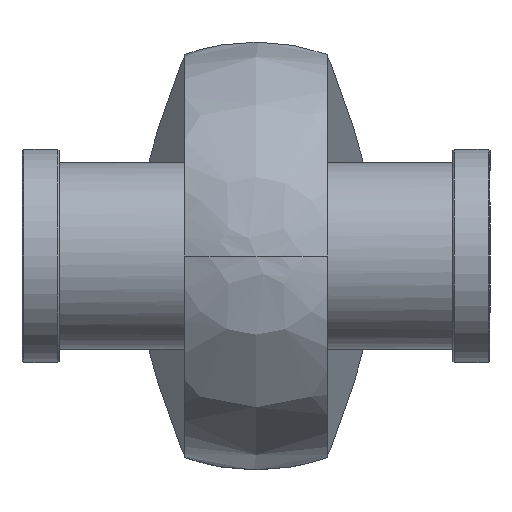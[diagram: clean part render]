
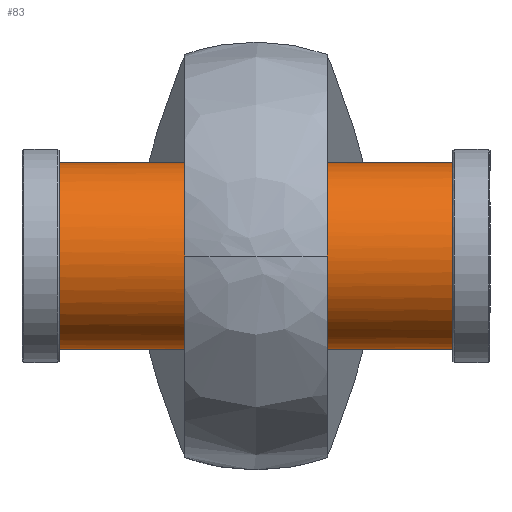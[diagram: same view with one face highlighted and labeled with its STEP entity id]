
A CAD part, left-side view. The second image highlights one B-rep face of the part: STEP entity #83.
In plain terms, the highlighted cylindrical face has radius 27.5 mm (diameter 55 mm), a full revolution.
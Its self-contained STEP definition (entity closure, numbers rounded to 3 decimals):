
#83=ADVANCED_FACE('',(#157),#1214,.T.);
#157=FACE_OUTER_BOUND('',#238,.T.);
#238=EDGE_LOOP('',(#506,#507,#508,#509));
#506=ORIENTED_EDGE('',*,*,#774,.T.);
#507=ORIENTED_EDGE('',*,*,#776,.T.);
#508=ORIENTED_EDGE('',*,*,#775,.T.);
#509=ORIENTED_EDGE('',*,*,#776,.F.);
#774=EDGE_CURVE('',#1128,#1128,#983,.T.);
#775=EDGE_CURVE('',#1129,#1129,#984,.T.);
#776=EDGE_CURVE('',#1128,#1129,#897,.T.);
#897=B_SPLINE_CURVE_WITH_KNOTS('',1,(#2248,#2249),.UNSPECIFIED.,.F.,.F.,
(2,2),(11.707,127.579),.UNSPECIFIED.);
#983=(
BOUNDED_CURVE()
B_SPLINE_CURVE(2,(#2230,#2231,#2232,#2233,#2234,#2235,#2236,#2237,#2238),
 .UNSPECIFIED.,.T.,.F.)
B_SPLINE_CURVE_WITH_KNOTS((3,2,2,2,3),(0.,43.197,86.394,
129.591,172.788),.UNSPECIFIED.)
CURVE()
GEOMETRIC_REPRESENTATION_ITEM()
RATIONAL_B_SPLINE_CURVE((1.,0.707,1.,0.707,1.,0.707,
1.,0.707,1.))
REPRESENTATION_ITEM('')
);
#984=(
BOUNDED_CURVE()
B_SPLINE_CURVE(2,(#2239,#2240,#2241,#2242,#2243,#2244,#2245,#2246,#2247),
 .UNSPECIFIED.,.T.,.F.)
B_SPLINE_CURVE_WITH_KNOTS((3,2,2,2,3),(0.,43.197,86.394,
129.591,172.788),.UNSPECIFIED.)
CURVE()
GEOMETRIC_REPRESENTATION_ITEM()
RATIONAL_B_SPLINE_CURVE((1.,0.707,1.,0.707,1.,0.707,
1.,0.707,1.))
REPRESENTATION_ITEM('')
);
#1128=VERTEX_POINT('',#2182);
#1129=VERTEX_POINT('',#2183);
#1214=CYLINDRICAL_SURFACE('',#1366,27.5);
#1366=AXIS2_PLACEMENT_3D('',#2172,#1412,$);
#1412=DIRECTION('',(0.,-1.,0.));
#2172=CARTESIAN_POINT('',(0.,0.,0.));
#2182=CARTESIAN_POINT('',(27.5,57.936,0.));
#2183=CARTESIAN_POINT('',(27.5,-57.936,0.));
#2230=CARTESIAN_POINT('',(27.5,57.936,0.));
#2231=CARTESIAN_POINT('',(27.5,57.936,27.5));
#2232=CARTESIAN_POINT('',(0.,57.936,27.5));
#2233=CARTESIAN_POINT('',(-27.5,57.936,27.5));
#2234=CARTESIAN_POINT('',(-27.5,57.936,0.));
#2235=CARTESIAN_POINT('',(-27.5,57.936,-27.5));
#2236=CARTESIAN_POINT('',(0.,57.936,-27.5));
#2237=CARTESIAN_POINT('',(27.5,57.936,-27.5));
#2238=CARTESIAN_POINT('',(27.5,57.936,0.));
#2239=CARTESIAN_POINT('',(27.5,-57.936,0.));
#2240=CARTESIAN_POINT('',(27.5,-57.936,-27.5));
#2241=CARTESIAN_POINT('',(0.,-57.936,-27.5));
#2242=CARTESIAN_POINT('',(-27.5,-57.936,-27.5));
#2243=CARTESIAN_POINT('',(-27.5,-57.936,0.));
#2244=CARTESIAN_POINT('',(-27.5,-57.936,27.5));
#2245=CARTESIAN_POINT('',(0.,-57.936,27.5));
#2246=CARTESIAN_POINT('',(27.5,-57.936,27.5));
#2247=CARTESIAN_POINT('',(27.5,-57.936,0.));
#2248=CARTESIAN_POINT('',(27.5,57.936,0.));
#2249=CARTESIAN_POINT('',(27.5,-57.936,0.));
